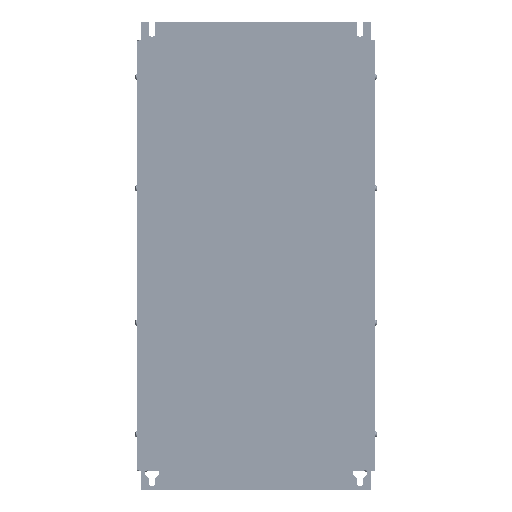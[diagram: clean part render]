
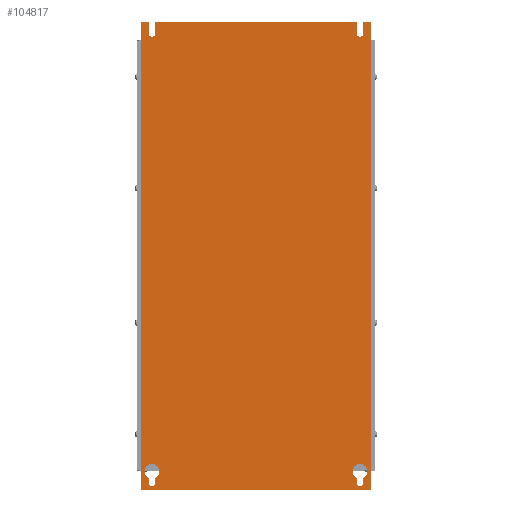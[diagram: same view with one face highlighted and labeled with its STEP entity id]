
A CAD part, front view. The second image highlights one B-rep face of the part: STEP entity #104817.
In plain terms, the highlighted planar face has unit normal (0, -1, 0).
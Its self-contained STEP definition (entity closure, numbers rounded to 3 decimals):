
#39546=DIRECTION('',(-1.,0.,0.));
#39547=VECTOR('',#39546,10.5);
#39548=CARTESIAN_POINT('',(7.,-117.,72.));
#39549=LINE('',#39548,#39547);
#39562=DIRECTION('',(0.,0.,-1.));
#39563=VECTOR('',#39562,15.5);
#39564=CARTESIAN_POINT('',(-12.5,-117.,72.));
#39565=LINE('',#39564,#39563);
#39566=CARTESIAN_POINT('',(-8.,-117.,56.5));
#39567=DIRECTION('',(0.,-1.,0.));
#39568=DIRECTION('',(-1.,0.,0.));
#39569=AXIS2_PLACEMENT_3D('',#39566,#39567,#39568);
#39571=DIRECTION('',(0.,0.,1.));
#39572=VECTOR('',#39571,15.5);
#39573=CARTESIAN_POINT('',(-3.5,-117.,56.5));
#39574=LINE('',#39573,#39572);
#39575=DIRECTION('',(-1.,0.,0.));
#39576=VECTOR('',#39575,310.);
#39577=CARTESIAN_POINT('',(7.,-117.,-558.));
#39578=LINE('',#39577,#39576);
#39579=DIRECTION('',(0.,0.,1.));
#39580=VECTOR('',#39579,630.);
#39581=CARTESIAN_POINT('',(-303.,-117.,-558.));
#39582=LINE('',#39581,#39580);
#39583=DIRECTION('',(0.,0.,-1.));
#39584=VECTOR('',#39583,15.5);
#39585=CARTESIAN_POINT('',(-292.5,-117.,72.));
#39586=LINE('',#39585,#39584);
#39587=CARTESIAN_POINT('',(-288.,-117.,56.5));
#39588=DIRECTION('',(0.,-1.,0.));
#39589=DIRECTION('',(-1.,0.,0.));
#39590=AXIS2_PLACEMENT_3D('',#39587,#39588,#39589);
#39592=DIRECTION('',(0.,0.,1.));
#39593=VECTOR('',#39592,15.5);
#39594=CARTESIAN_POINT('',(-283.5,-117.,56.5));
#39595=LINE('',#39594,#39593);
#39596=CARTESIAN_POINT('',(-288.,-117.,-548.));
#39597=DIRECTION('',(0.,-1.,0.));
#39598=DIRECTION('',(-1.,0.,0.));
#39599=AXIS2_PLACEMENT_3D('',#39596,#39597,#39598);
#39601=DIRECTION('',(0.,0.,1.));
#39602=VECTOR('',#39601,6.07);
#39603=CARTESIAN_POINT('',(-283.5,-117.,-548.));
#39604=LINE('',#39603,#39602);
#39605=CARTESIAN_POINT('',(-288.,-117.,-533.));
#39606=DIRECTION('',(0.,-1.,0.));
#39607=DIRECTION('',(0.45,0.,-0.893));
#39608=AXIS2_PLACEMENT_3D('',#39605,#39606,#39607);
#39610=CARTESIAN_POINT('',(-288.,-117.,-533.));
#39611=DIRECTION('',(0.,-1.,0.));
#39612=DIRECTION('',(1.,0.,0.));
#39613=AXIS2_PLACEMENT_3D('',#39610,#39611,#39612);
#39615=CARTESIAN_POINT('',(-288.,-117.,-533.));
#39616=DIRECTION('',(0.,-1.,0.));
#39617=DIRECTION('',(0.45,0.,0.893));
#39618=AXIS2_PLACEMENT_3D('',#39615,#39616,#39617);
#39620=CARTESIAN_POINT('',(-288.,-117.,-533.));
#39621=DIRECTION('',(0.,-1.,0.));
#39622=DIRECTION('',(-1.,0.,0.));
#39623=AXIS2_PLACEMENT_3D('',#39620,#39621,#39622);
#39625=DIRECTION('',(0.,0.,-1.));
#39626=VECTOR('',#39625,6.07);
#39627=CARTESIAN_POINT('',(-292.5,-117.,-541.93));
#39628=LINE('',#39627,#39626);
#39629=CARTESIAN_POINT('',(-8.,-117.,-533.));
#39630=DIRECTION('',(0.,-1.,0.));
#39631=DIRECTION('',(-1.,0.,0.));
#39632=AXIS2_PLACEMENT_3D('',#39629,#39630,#39631);
#39634=DIRECTION('',(0.,0.,-1.));
#39635=VECTOR('',#39634,6.07);
#39636=CARTESIAN_POINT('',(-12.5,-117.,-541.93));
#39637=LINE('',#39636,#39635);
#39638=CARTESIAN_POINT('',(-8.,-117.,-548.));
#39639=DIRECTION('',(0.,-1.,0.));
#39640=DIRECTION('',(-1.,0.,0.));
#39641=AXIS2_PLACEMENT_3D('',#39638,#39639,#39640);
#39643=DIRECTION('',(0.,0.,1.));
#39644=VECTOR('',#39643,6.07);
#39645=CARTESIAN_POINT('',(-3.5,-117.,-548.));
#39646=LINE('',#39645,#39644);
#39647=CARTESIAN_POINT('',(-8.,-117.,-533.));
#39648=DIRECTION('',(0.,-1.,0.));
#39649=DIRECTION('',(0.45,0.,-0.893));
#39650=AXIS2_PLACEMENT_3D('',#39647,#39648,#39649);
#39652=CARTESIAN_POINT('',(-8.,-117.,-533.));
#39653=DIRECTION('',(0.,-1.,0.));
#39654=DIRECTION('',(1.,0.,0.));
#39655=AXIS2_PLACEMENT_3D('',#39652,#39653,#39654);
#39657=CARTESIAN_POINT('',(-8.,-117.,-533.));
#39658=DIRECTION('',(0.,-1.,0.));
#39659=DIRECTION('',(0.45,0.,0.893));
#39660=AXIS2_PLACEMENT_3D('',#39657,#39658,#39659);
#39666=DIRECTION('',(-1.,0.,0.));
#39667=VECTOR('',#39666,271.);
#39668=CARTESIAN_POINT('',(-12.5,-117.,72.));
#39669=LINE('',#39668,#39667);
#39702=DIRECTION('',(-1.,0.,0.));
#39703=VECTOR('',#39702,10.5);
#39704=CARTESIAN_POINT('',(-292.5,-117.,72.));
#39705=LINE('',#39704,#39703);
#39774=DIRECTION('',(0.,0.,1.));
#39775=VECTOR('',#39774,630.);
#39776=CARTESIAN_POINT('',(7.,-117.,-558.));
#39777=LINE('',#39776,#39775);
#61088=CARTESIAN_POINT('',(-12.5,-117.,56.5));
#61089=VERTEX_POINT('',#61088);
#61090=CARTESIAN_POINT('',(-12.5,-117.,72.));
#61091=VERTEX_POINT('',#61090);
#61092=CARTESIAN_POINT('',(-3.5,-117.,56.5));
#61093=VERTEX_POINT('',#61092);
#61094=CARTESIAN_POINT('',(-3.5,-117.,72.));
#61095=VERTEX_POINT('',#61094);
#61096=CARTESIAN_POINT('',(7.,-117.,72.));
#61097=VERTEX_POINT('',#61096);
#61100=CARTESIAN_POINT('',(-283.5,-117.,72.));
#61101=VERTEX_POINT('',#61100);
#61102=CARTESIAN_POINT('',(7.,-117.,-558.));
#61103=VERTEX_POINT('',#61102);
#61104=CARTESIAN_POINT('',(-303.,-117.,-558.));
#61105=VERTEX_POINT('',#61104);
#61106=CARTESIAN_POINT('',(-303.,-117.,72.));
#61107=VERTEX_POINT('',#61106);
#61108=CARTESIAN_POINT('',(-292.5,-117.,72.));
#61109=VERTEX_POINT('',#61108);
#61110=CARTESIAN_POINT('',(-292.5,-117.,56.5));
#61111=VERTEX_POINT('',#61110);
#61112=CARTESIAN_POINT('',(-283.5,-117.,56.5));
#61113=VERTEX_POINT('',#61112);
#61114=CARTESIAN_POINT('',(-292.5,-117.,-548.));
#61115=CARTESIAN_POINT('',(-283.5,-117.,-548.));
#61116=VERTEX_POINT('',#61114);
#61117=VERTEX_POINT('',#61115);
#61118=CARTESIAN_POINT('',(-283.5,-117.,-541.93));
#61119=VERTEX_POINT('',#61118);
#61120=CARTESIAN_POINT('',(-278.,-117.,-533.));
#61121=VERTEX_POINT('',#61120);
#61122=CARTESIAN_POINT('',(-283.5,-117.,-524.07));
#61123=VERTEX_POINT('',#61122);
#61124=CARTESIAN_POINT('',(-298.,-117.,-533.));
#61125=VERTEX_POINT('',#61124);
#61126=CARTESIAN_POINT('',(-292.5,-117.,-541.93));
#61127=VERTEX_POINT('',#61126);
#61128=CARTESIAN_POINT('',(-18.,-117.,-533.));
#61129=CARTESIAN_POINT('',(-12.5,-117.,-541.93));
#61130=VERTEX_POINT('',#61128);
#61131=VERTEX_POINT('',#61129);
#61132=CARTESIAN_POINT('',(-12.5,-117.,-548.));
#61133=VERTEX_POINT('',#61132);
#61134=CARTESIAN_POINT('',(-3.5,-117.,-548.));
#61135=VERTEX_POINT('',#61134);
#61136=CARTESIAN_POINT('',(-3.5,-117.,-541.93));
#61137=VERTEX_POINT('',#61136);
#61138=CARTESIAN_POINT('',(2.,-117.,-533.));
#61139=VERTEX_POINT('',#61138);
#61140=CARTESIAN_POINT('',(-3.5,-117.,-524.07));
#61141=VERTEX_POINT('',#61140);
#104758=CARTESIAN_POINT('',(-303.,-117.,72.));
#104759=DIRECTION('',(0.,-1.,0.));
#104760=DIRECTION('',(0.,0.,-1.));
#104761=AXIS2_PLACEMENT_3D('',#104758,#104759,#104760);
#104762=PLANE('',#104761);
#104764=ORIENTED_EDGE('',*,*,#104763,.F.);
#104765=ORIENTED_EDGE('',*,*,#104706,.T.);
#104766=ORIENTED_EDGE('',*,*,#104721,.T.);
#104767=ORIENTED_EDGE('',*,*,#104735,.T.);
#104768=ORIENTED_EDGE('',*,*,#104746,.F.);
#104770=ORIENTED_EDGE('',*,*,#104769,.F.);
#104772=ORIENTED_EDGE('',*,*,#104771,.T.);
#104774=ORIENTED_EDGE('',*,*,#104773,.T.);
#104776=ORIENTED_EDGE('',*,*,#104775,.F.);
#104778=ORIENTED_EDGE('',*,*,#104777,.T.);
#104780=ORIENTED_EDGE('',*,*,#104779,.T.);
#104782=ORIENTED_EDGE('',*,*,#104781,.T.);
#104783=EDGE_LOOP('',(#104764,#104765,#104766,#104767,#104768,#104770,#104772,
#104774,#104776,#104778,#104780,#104782));
#104784=FACE_OUTER_BOUND('',#104783,.F.);
#104786=ORIENTED_EDGE('',*,*,#104785,.T.);
#104788=ORIENTED_EDGE('',*,*,#104787,.T.);
#104790=ORIENTED_EDGE('',*,*,#104789,.T.);
#104792=ORIENTED_EDGE('',*,*,#104791,.T.);
#104794=ORIENTED_EDGE('',*,*,#104793,.T.);
#104796=ORIENTED_EDGE('',*,*,#104795,.T.);
#104798=ORIENTED_EDGE('',*,*,#104797,.T.);
#104799=EDGE_LOOP('',(#104786,#104788,#104790,#104792,#104794,#104796,#104798));
#104800=FACE_BOUND('',#104799,.F.);
#104802=ORIENTED_EDGE('',*,*,#104801,.T.);
#104804=ORIENTED_EDGE('',*,*,#104803,.T.);
#104806=ORIENTED_EDGE('',*,*,#104805,.T.);
#104808=ORIENTED_EDGE('',*,*,#104807,.T.);
#104810=ORIENTED_EDGE('',*,*,#104809,.T.);
#104812=ORIENTED_EDGE('',*,*,#104811,.T.);
#104814=ORIENTED_EDGE('',*,*,#104813,.T.);
#104815=EDGE_LOOP('',(#104802,#104804,#104806,#104808,#104810,#104812,#104814));
#104816=FACE_BOUND('',#104815,.F.);
#39570=CIRCLE('',#39569,4.5);
#39591=CIRCLE('',#39590,4.5);
#39600=CIRCLE('',#39599,4.5);
#39609=CIRCLE('',#39608,10.);
#39614=CIRCLE('',#39613,10.);
#39619=CIRCLE('',#39618,10.);
#39624=CIRCLE('',#39623,10.);
#39633=CIRCLE('',#39632,10.);
#39642=CIRCLE('',#39641,4.5);
#39651=CIRCLE('',#39650,10.);
#39656=CIRCLE('',#39655,10.);
#39661=CIRCLE('',#39660,10.);
#104706=EDGE_CURVE('',#61091,#61089,#39565,.T.);
#104721=EDGE_CURVE('',#61089,#61093,#39570,.T.);
#104735=EDGE_CURVE('',#61093,#61095,#39574,.T.);
#104746=EDGE_CURVE('',#61097,#61095,#39549,.T.);
#104763=EDGE_CURVE('',#61091,#61101,#39669,.T.);
#104769=EDGE_CURVE('',#61103,#61097,#39777,.T.);
#104771=EDGE_CURVE('',#61103,#61105,#39578,.T.);
#104773=EDGE_CURVE('',#61105,#61107,#39582,.T.);
#104775=EDGE_CURVE('',#61109,#61107,#39705,.T.);
#104777=EDGE_CURVE('',#61109,#61111,#39586,.T.);
#104779=EDGE_CURVE('',#61111,#61113,#39591,.T.);
#104781=EDGE_CURVE('',#61113,#61101,#39595,.T.);
#104785=EDGE_CURVE('',#61116,#61117,#39600,.T.);
#104787=EDGE_CURVE('',#61117,#61119,#39604,.T.);
#104789=EDGE_CURVE('',#61119,#61121,#39609,.T.);
#104791=EDGE_CURVE('',#61121,#61123,#39614,.T.);
#104793=EDGE_CURVE('',#61123,#61125,#39619,.T.);
#104795=EDGE_CURVE('',#61125,#61127,#39624,.T.);
#104797=EDGE_CURVE('',#61127,#61116,#39628,.T.);
#104801=EDGE_CURVE('',#61130,#61131,#39633,.T.);
#104803=EDGE_CURVE('',#61131,#61133,#39637,.T.);
#104805=EDGE_CURVE('',#61133,#61135,#39642,.T.);
#104807=EDGE_CURVE('',#61135,#61137,#39646,.T.);
#104809=EDGE_CURVE('',#61137,#61139,#39651,.T.);
#104811=EDGE_CURVE('',#61139,#61141,#39656,.T.);
#104813=EDGE_CURVE('',#61141,#61130,#39661,.T.);
#104817=ADVANCED_FACE('',(#104784,#104800,#104816),#104762,.T.);
